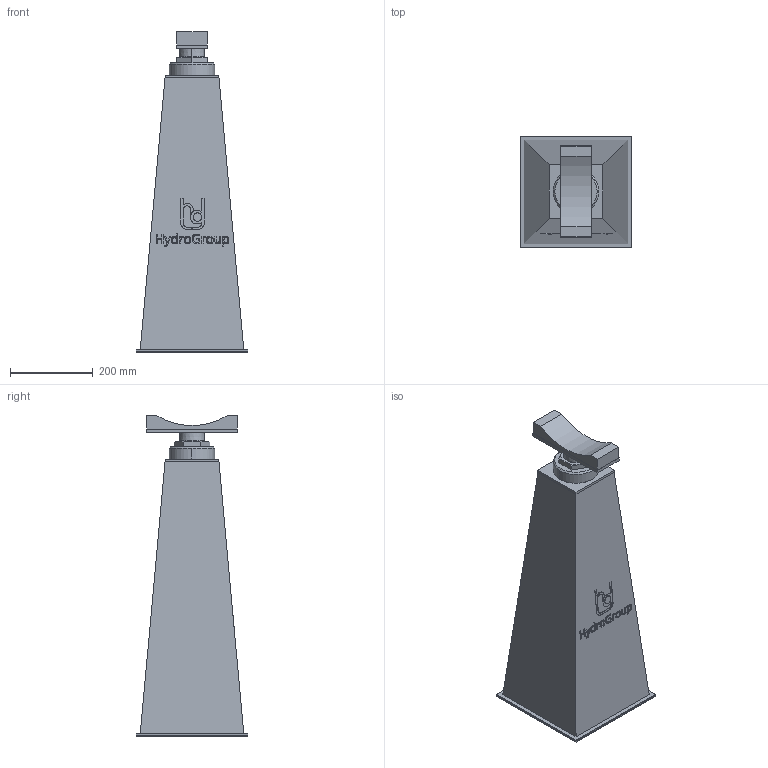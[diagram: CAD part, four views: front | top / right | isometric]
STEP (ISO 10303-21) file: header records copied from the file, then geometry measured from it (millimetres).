
FILE_DESCRIPTION(('STEP AP214'),'1');
FILE_NAME('RSRFE-I_DN300.stp','2018-06-27T12:59:42',(' '),(' '),'Spatial InterOp 3D',' ',' ');
FILE_SCHEMA(('automotive_design'));
Length unit declared in the file: millimetre
Products named in the file (6): 1; 2; 3; 4; 5; 6
Bounding box: 270 x 270 x 774 mm (x, y, z)
Volume: 26572103.8 mm3; surface area: 932535.8 mm2
Topology: 6 solids, 6 shells, 223 faces, 552 edges, 361 vertices
Faces by surface type: plane 145, cylinder 30, extrusion 24, cone 20, torus 4
Entity records: 8998 total; most frequent: CARTESIAN_POINT 1816, ORIENTED_EDGE 1104, DIRECTION 1017, EDGE_CURVE 552, VECTOR 425, LINE 401, VERTEX_POINT 361, AXIS2_PLACEMENT_3D 296
